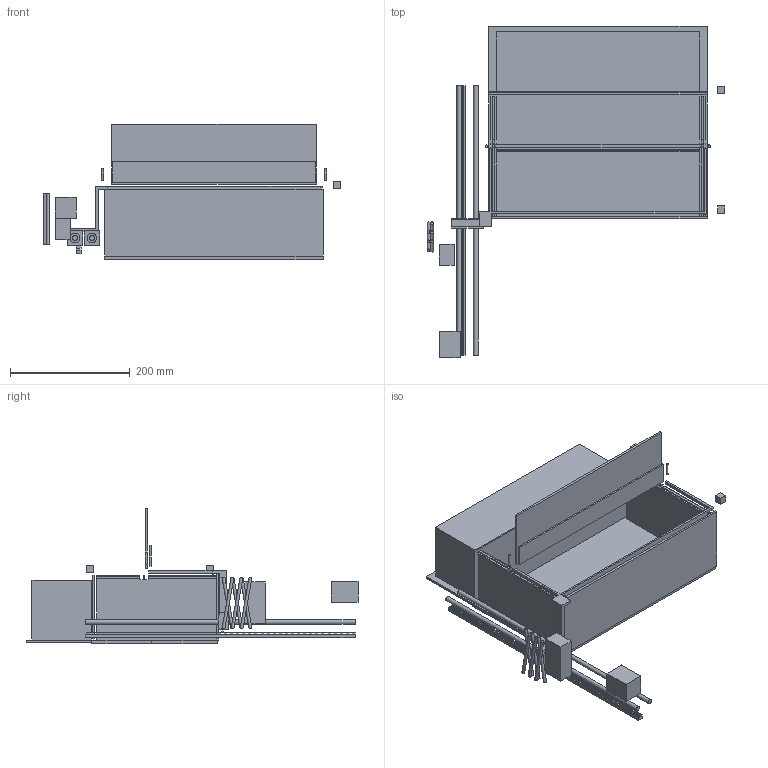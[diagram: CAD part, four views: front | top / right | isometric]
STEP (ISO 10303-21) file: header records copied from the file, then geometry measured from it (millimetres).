
FILE_DESCRIPTION(('FreeCAD Model'),'2;1');
FILE_NAME('Open CASCADE Shape Model','2026-10-19T11:27:19',('FreeCAD'),( 'FreeCAD'),'Open CASCADE STEP processor 7.8','FreeCAD','Unknown');
FILE_SCHEMA(('AUTOMOTIVE_DESIGN { 1 0 10303 214 1 1 1 1 }'));
Length unit declared in the file: millimetre
Products named in the file (1): Open CASCADE STEP translator 7.8 20
Bounding box: 498 x 555 x 226 mm (x, y, z)
Volume: 4965071.4 mm3; surface area: 937028.6 mm2
Topology: 33 solids, 33 shells, 1164 faces, 3291 edges, 2194 vertices
Faces by surface type: plane 1148, cylinder 16
Full cylindrical faces by diameter (mm): 4 x2, 5 x6, 8 x2, 8.5 x2, 16 x4
Entity records: 36869 total; most frequent: CARTESIAN_POINT 6650, ORIENTED_EDGE 6582, DIRECTION 5653, EDGE_CURVE 3291, LINE 3259, VECTOR 3259, VERTEX_POINT 2194, AXIS2_PLACEMENT_3D 1197
